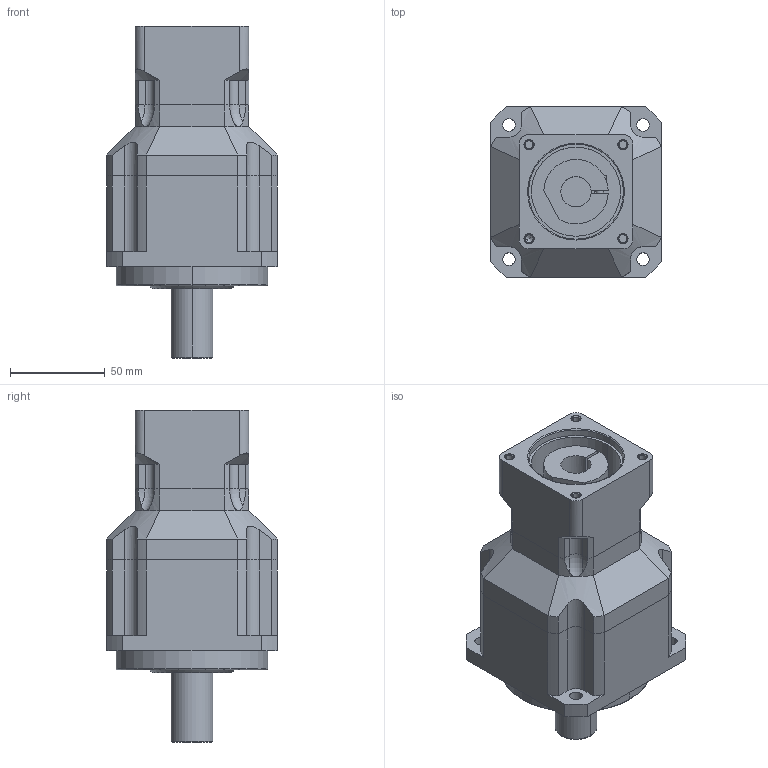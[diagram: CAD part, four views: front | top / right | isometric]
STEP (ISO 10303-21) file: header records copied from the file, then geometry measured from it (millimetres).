
FILE_DESCRIPTION((''),'2;1');
FILE_NAME('AB0902-P4020102_ASM','2005-07-20T',('jacky'),(''),'PRO/ENGINEER BY PARAMETRIC TECHNOLOGY CORPORATION, 2001280','PRO/ENGINEER BY PARAMETRIC TECHNOLOGY CORPORATION, 2001280','');
FILE_SCHEMA(('CONFIG_CONTROL_DESIGN'));
Length unit declared in the file: millimetre
Products named in the file (4): AB0902; AB0902-1; P4020102; AB0902-P4020102_ASM
Assembly tree (3 placements, depth 2):
  AB0902-P4020102_ASM
    AB0902
    AB0902-1
    P4020102
Bounding box: 90 x 90 x 175 mm (x, y, z)
Volume: 682953 mm3; surface area: 85310.8 mm2
Topology: 3 solids, 7 shells, 218 faces, 557 edges, 359 vertices
Faces by surface type: cylinder 95, plane 85, cone 24, torus 10, bspline 4
Entity records: 7117 total; most frequent: CARTESIAN_POINT 1581, DIRECTION 1195, ORIENTED_EDGE 1094, EDGE_CURVE 555, AXIS2_PLACEMENT_3D 458, VERTEX_POINT 359, VECTOR 279, LINE 279
